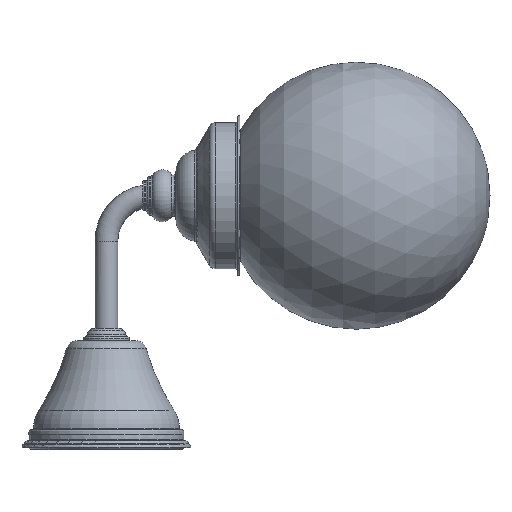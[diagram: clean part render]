
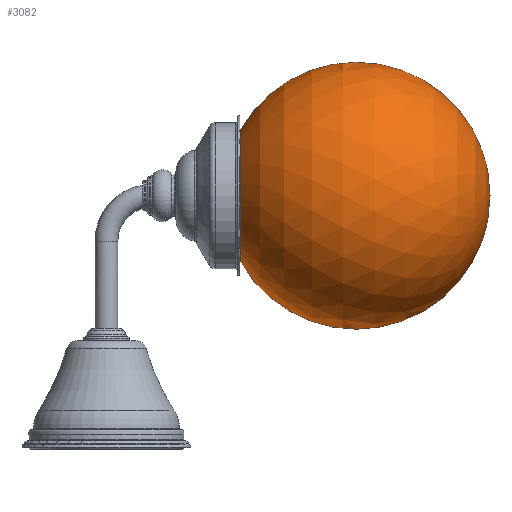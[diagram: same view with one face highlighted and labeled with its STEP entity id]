
A CAD part, top view. The second image highlights one B-rep face of the part: STEP entity #3082.
In plain terms, the highlighted spherical face has radius 58.5 mm.
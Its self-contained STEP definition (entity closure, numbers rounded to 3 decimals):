
#3043=CARTESIAN_POINT('',(58.834,110.5,0.));
#3044=DIRECTION('',(-1.,0.,0.));
#3045=DIRECTION('',(0.,-1.,0.));
#3046=AXIS2_PLACEMENT_3D('',#3043,#3044,#3045);
#3053=CARTESIAN_POINT('',(109.633,110.5,0.));
#3054=DIRECTION('',(0.,0.,1.));
#3055=DIRECTION('',(-0.868,-0.496,0.));
#3056=AXIS2_PLACEMENT_3D('',#3053,#3054,#3055);
#3058=CARTESIAN_POINT('',(109.633,110.5,0.));
#3059=DIRECTION('',(0.,0.,-1.));
#3060=DIRECTION('',(-0.868,0.496,0.));
#3061=AXIS2_PLACEMENT_3D('',#3058,#3059,#3060);
#3063=CARTESIAN_POINT('',(58.834,139.512,0.));
#3064=CARTESIAN_POINT('',(58.834,81.488,0.));
#3065=VERTEX_POINT('',#3063);
#3066=VERTEX_POINT('',#3064);
#3067=CARTESIAN_POINT('',(168.133,110.5,0.));
#3068=VERTEX_POINT('',#3067);
#3069=CARTESIAN_POINT('',(109.633,110.5,0.));
#3070=DIRECTION('',(-1.,0.,0.));
#3071=DIRECTION('',(0.,1.,0.));
#3072=AXIS2_PLACEMENT_3D('',#3069,#3070,#3071);
#3073=SPHERICAL_SURFACE('',#3072,58.5);
#3075=ORIENTED_EDGE('',*,*,#3074,.T.);
#3077=ORIENTED_EDGE('',*,*,#3076,.T.);
#3079=ORIENTED_EDGE('',*,*,#3078,.F.);
#3080=EDGE_LOOP('',(#3075,#3077,#3079));
#3081=FACE_OUTER_BOUND('',#3080,.F.);
#3082=ADVANCED_FACE('',(#3081),#3073,.T.);
#3047=CIRCLE('',#3046,29.012);
#3057=CIRCLE('',#3056,58.5);
#3062=CIRCLE('',#3061,58.5);
#3074=EDGE_CURVE('',#3066,#3065,#3047,.T.);
#3076=EDGE_CURVE('',#3065,#3068,#3062,.T.);
#3078=EDGE_CURVE('',#3066,#3068,#3057,.T.);
